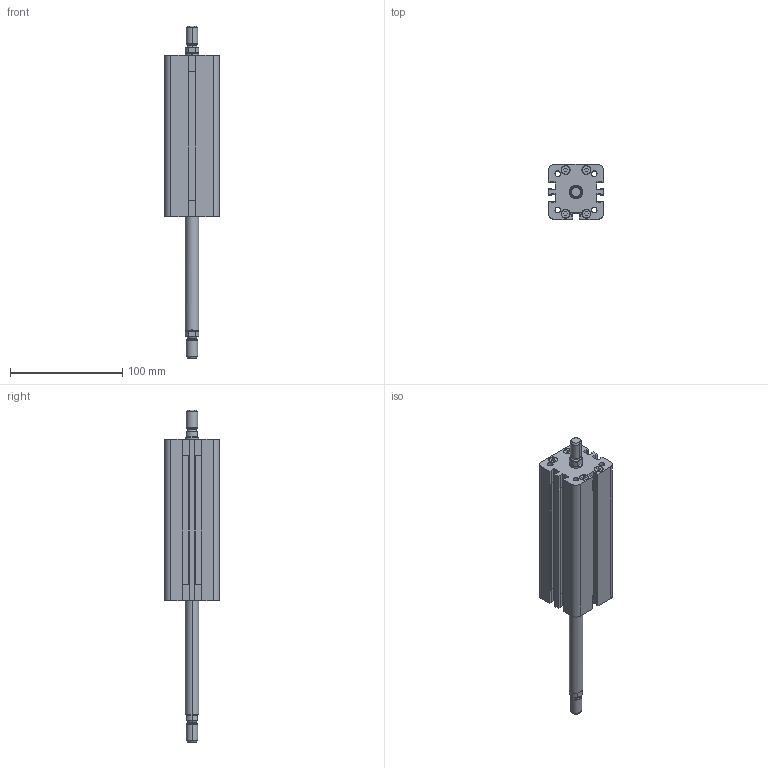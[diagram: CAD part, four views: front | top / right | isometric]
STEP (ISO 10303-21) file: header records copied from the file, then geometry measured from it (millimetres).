
FILE_DESCRIPTION (( 'STEP AP203' ), '1' );
FILE_NAME ('WJM0320100A.step', '2013-04-22T07:00:18', ( '' ), ( '' ), 'SwSTEP 2.0', 'SolidWorks 2012', '' );
FILE_SCHEMA (( 'CONFIG_CONTROL_DESIGN' ));
Length unit declared in the file: millimetre
Products named in the file (1): WJM0320100A
Bounding box: 49 x 49 x 296 mm (x, y, z)
Volume: 317763.1 mm3; surface area: 58239 mm2
Topology: 1 solids, 1 shells, 441 faces, 1196 edges, 785 vertices
Faces by surface type: plane 216, cylinder 191, cone 26, torus 8
Entity records: 14154 total; most frequent: CARTESIAN_POINT 2631, DIRECTION 2453, ORIENTED_EDGE 2392, EDGE_CURVE 1196, AXIS2_PLACEMENT_3D 855, VERTEX_POINT 785, VECTOR 743, LINE 743
